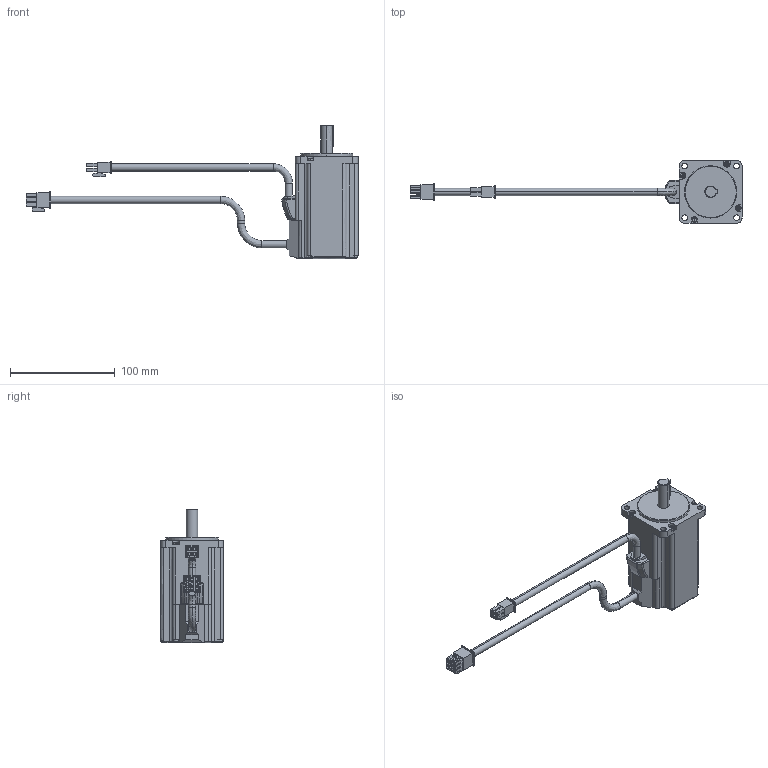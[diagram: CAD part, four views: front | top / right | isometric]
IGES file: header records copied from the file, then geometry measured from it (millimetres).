
Start section:  PTC IGES file: 10001024_rsmz-02bq-bh_no-brake.igs
Global section: file name: 10001024_rsmz-02bq-bh_no-brake.igs; native system: Pro/ENGINEER by Parametric Technology Corporation; preprocessor: 2004440; author: Administrator; organization: Unknown; date: 070829.201614; units: millimetre
Bounding box: 317.7 x 60 x 128 mm (x, y, z)
Volume: 338691.5 mm3; surface area: 47390.3 mm2
Topology: 1 solids, 1 shells, 465 faces, 1176 edges, 763 vertices
Faces by surface type: bspline 335, revolution 130
